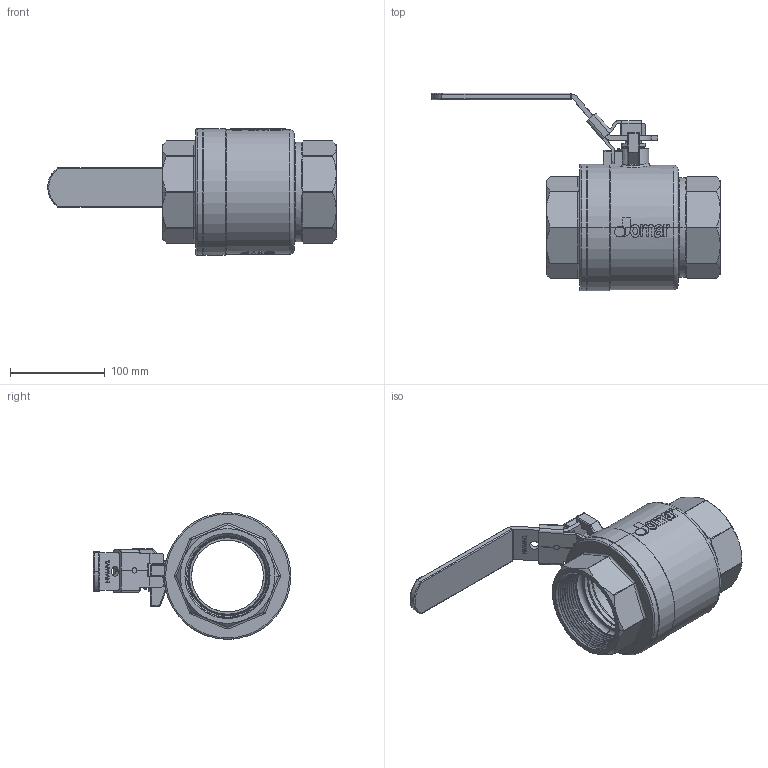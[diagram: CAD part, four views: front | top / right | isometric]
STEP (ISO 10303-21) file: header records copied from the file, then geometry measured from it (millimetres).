
FILE_DESCRIPTION (( 'STEP AP203' ), '1' );
FILE_NAME ('ABL750-有掛鎖-3''''JOMA球閥體組合-無鉛-端面無插溝.STEP', '2025-12-15T08:09:09', ( '' ), ( '' ), 'SwSTEP 2.0', 'SolidWorks 2018', '' );
FILE_SCHEMA (( 'CONFIG_CONTROL_DESIGN' ));
Length unit declared in the file: millimetre
Products named in the file (14): DN65-掛鎖把手-CBL270; EBL209B; GBL210; DN65-掛鎖; BBL710A-3''''JOMA球閥八角頭-無鉛-端面無插溝; BBL710-3''''JOMA球閥體-無鉛-端面無插溝; TBL271; EBL209A; DN65 & DN80-CBL749-白色膠套-T&G-200CSSG-LH; RBL270; NBL270; ABL750-有掛鎖-3''''JOMA球閥體組合-無鉛-端面無插溝; DN65-CBL749-LATCH LOCK HANDLE 組合; EBL241
Assembly tree (14 placements, depth 3):
  ABL750-有掛鎖-3''''JOMA球閥體組合-無鉛-端面無插溝
    BBL710-3''''JOMA球閥體-無鉛-端面無插溝
    RBL270
    EBL209A
    EBL209B
    GBL210
    BBL710A-3''''JOMA球閥八角頭-無鉛-端面無插溝
    EBL241  x2
    NBL270
    TBL271
    DN65-CBL749-LATCH LOCK HANDLE 組合
      DN65-掛鎖把手-CBL270
      DN65-掛鎖
    DN65 & DN80-CBL749-白色膠套-T&G-200CSSG-LH
Bounding box: 305.2 x 209.11 x 134 mm (x, y, z)
Volume: 1074314.7 mm3; surface area: 351826.5 mm2
Topology: 13 solids, 13 shells, 2433 faces, 6553 edges, 4318 vertices
Faces by surface type: plane 1263, bspline 679, cylinder 307, cone 124, torus 48, sphere 12
Entity records: 142145 total; most frequent: CARTESIAN_POINT 85399, ORIENTED_EDGE 13038, DIRECTION 8724, EDGE_CURVE 6519, VERTEX_POINT 4300, LINE 3982, VECTOR 3982, EDGE_LOOP 2631
